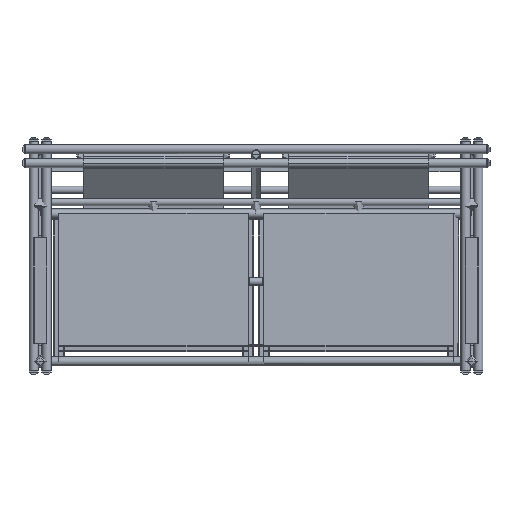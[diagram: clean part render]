
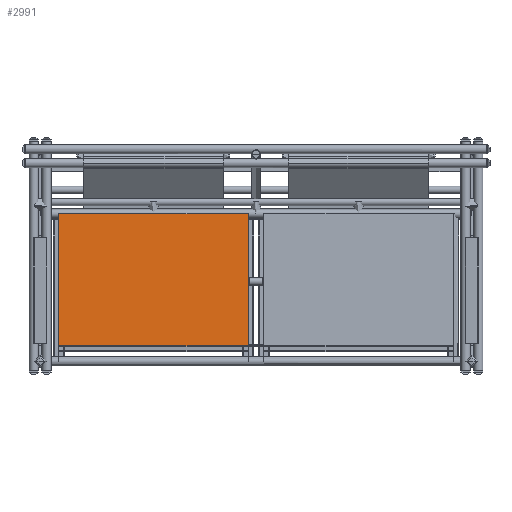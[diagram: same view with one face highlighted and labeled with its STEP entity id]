
A CAD part, top view. The second image highlights one B-rep face of the part: STEP entity #2991.
In plain terms, the highlighted free-form (B-spline) face has degree [1, 1] with [2, 2] control points.
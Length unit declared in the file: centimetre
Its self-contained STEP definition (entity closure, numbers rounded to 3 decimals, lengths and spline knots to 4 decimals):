
#2991=ADVANCED_FACE('',(#3645),#19189,.T.);
#3645=FACE_OUTER_BOUND('',#4301,.T.);
#4301=EDGE_LOOP('',(#5531,#5532,#5533,#5534));
#5531=ORIENTED_EDGE('',*,*,#14345,.F.);
#5532=ORIENTED_EDGE('',*,*,#14348,.F.);
#5533=ORIENTED_EDGE('',*,*,#14349,.T.);
#5534=ORIENTED_EDGE('',*,*,#14350,.T.);
#8148=PCURVE('',#19187,#10770);
#8152=PCURVE('',#19188,#10774);
#8153=PCURVE('',#19189,#10775);
#8154=PCURVE('',#19189,#10776);
#8155=PCURVE('',#19189,#10777);
#8156=PCURVE('',#19189,#10778);
#8159=PCURVE('',#19190,#10781);
#8162=PCURVE('',#19191,#10784);
#10770=DEFINITIONAL_REPRESENTATION('',(#16170),#48075);
#10774=DEFINITIONAL_REPRESENTATION('',(#16177),#48075);
#10775=DEFINITIONAL_REPRESENTATION('',(#16178),#48075);
#10776=DEFINITIONAL_REPRESENTATION('',(#16179),#48075);
#10777=DEFINITIONAL_REPRESENTATION('',(#16181),#48075);
#10778=DEFINITIONAL_REPRESENTATION('',(#16183),#48075);
#10781=DEFINITIONAL_REPRESENTATION('',(#16188),#48075);
#10784=DEFINITIONAL_REPRESENTATION('',(#16191),#48075);
#13034=SURFACE_CURVE('',#16169,(#8148,#8153),.PCURVE_S1.);
#13037=SURFACE_CURVE('',#16176,(#8152,#8154),.PCURVE_S1.);
#13038=SURFACE_CURVE('',#16180,(#8155,#8159),.PCURVE_S1.);
#13039=SURFACE_CURVE('',#16182,(#8156,#8162),.PCURVE_S1.);
#14345=EDGE_CURVE('',#18461,#18458,#13034,.T.);
#14348=EDGE_CURVE('',#18463,#18461,#13037,.T.);
#14349=EDGE_CURVE('',#18463,#18464,#13038,.T.);
#14350=EDGE_CURVE('',#18464,#18458,#13039,.T.);
#16169=B_SPLINE_CURVE_WITH_KNOTS('',1,(#27163,#27164),.UNSPECIFIED.,.F.,
 .F.,(2,2),(-39.4504,39.4504),.UNSPECIFIED.);
#16170=B_SPLINE_CURVE_WITH_KNOTS('',1,(#27165,#27166),.UNSPECIFIED.,.F.,
 .F.,(2,2),(-39.4504,39.4504),.UNSPECIFIED.);
#16176=B_SPLINE_CURVE_WITH_KNOTS('',1,(#27177,#27178),.UNSPECIFIED.,.F.,
 .F.,(2,2),(0.,55.1655),.UNSPECIFIED.);
#16177=B_SPLINE_CURVE_WITH_KNOTS('',1,(#27179,#27180),.UNSPECIFIED.,.F.,
 .F.,(2,2),(0.,55.1655),.UNSPECIFIED.);
#16178=B_SPLINE_CURVE_WITH_KNOTS('',1,(#27181,#27182),.UNSPECIFIED.,.F.,
 .F.,(2,2),(-39.4504,39.4504),.UNSPECIFIED.);
#16179=B_SPLINE_CURVE_WITH_KNOTS('',1,(#27183,#27184),.UNSPECIFIED.,.F.,
 .F.,(2,2),(0.,55.1655),.UNSPECIFIED.);
#16180=B_SPLINE_CURVE_WITH_KNOTS('',1,(#27185,#27186),.UNSPECIFIED.,.F.,
 .F.,(2,2),(-78.9008,0.),.UNSPECIFIED.);
#16181=B_SPLINE_CURVE_WITH_KNOTS('',1,(#27187,#27188),.UNSPECIFIED.,.F.,
 .F.,(2,2),(-78.9008,0.),.UNSPECIFIED.);
#16182=B_SPLINE_CURVE_WITH_KNOTS('',1,(#27189,#27190),.UNSPECIFIED.,.F.,
 .F.,(2,2),(-61.5768,-6.4113),.UNSPECIFIED.);
#16183=B_SPLINE_CURVE_WITH_KNOTS('',1,(#27191,#27192),.UNSPECIFIED.,.F.,
 .F.,(2,2),(-61.5768,-6.4113),.UNSPECIFIED.);
#16188=B_SPLINE_CURVE_WITH_KNOTS('',1,(#27201,#27202),.UNSPECIFIED.,.F.,
 .F.,(2,2),(-78.9008,0.),.UNSPECIFIED.);
#16191=B_SPLINE_CURVE_WITH_KNOTS('',1,(#27207,#27208),.UNSPECIFIED.,.F.,
 .F.,(2,2),(-61.5768,-6.4113),.UNSPECIFIED.);
#18458=VERTEX_POINT('',#27143);
#18461=VERTEX_POINT('',#27146);
#18463=VERTEX_POINT('',#27148);
#18464=VERTEX_POINT('',#27149);
#19187=B_SPLINE_SURFACE_WITH_KNOTS('',1,1,((#27119,#27120),(#27121,#27122)),
 .UNSPECIFIED.,.F.,.F.,.F.,(2,2),(2,2),(-0.26,0.26),
(-39.4604,39.4604),.UNSPECIFIED.);
#19188=B_SPLINE_SURFACE_WITH_KNOTS('',1,1,((#27123,#27124),(#27125,#27126)),
 .UNSPECIFIED.,.F.,.F.,.F.,(2,2),(2,2),(-2.5796,3.0796),
(-0.0333,55.1987),.UNSPECIFIED.);
#19189=B_SPLINE_SURFACE_WITH_KNOTS('',1,1,((#27127,#27128),(#27129,#27130)),
 .UNSPECIFIED.,.F.,.F.,.F.,(2,2),(2,2),(-24.3871,30.7984),
(-39.4604,39.4604),.UNSPECIFIED.);
#19190=B_SPLINE_SURFACE_WITH_KNOTS('',1,1,((#27131,#27132),(#27133,#27134)),
 .UNSPECIFIED.,.F.,.F.,.F.,(2,2),(2,2),(-0.01,0.51),
(-0.01,78.9108),.UNSPECIFIED.);
#19191=B_SPLINE_SURFACE_WITH_KNOTS('',1,1,((#27135,#27136),(#27137,#27138)),
 .UNSPECIFIED.,.F.,.F.,.F.,(2,2),(2,2),(-2.5796,3.0796),
(6.3781,61.6101),.UNSPECIFIED.);
#27119=CARTESIAN_POINT('',(-3.2892,-36.0431,24.0932));
#27120=CARTESIAN_POINT('',(-82.21,-36.0431,24.0932));
#27121=CARTESIAN_POINT('',(-3.2892,-36.0189,24.6126));
#27122=CARTESIAN_POINT('',(-82.21,-36.0189,24.6126));
#27123=CARTESIAN_POINT('',(-3.2992,18.9758,18.9524));
#27124=CARTESIAN_POINT('',(-3.2992,-36.1962,21.5279));
#27125=CARTESIAN_POINT('',(-3.2992,19.2397,24.6054));
#27126=CARTESIAN_POINT('',(-3.2992,-35.9323,27.181));
#27127=CARTESIAN_POINT('',(-3.2892,-36.0293,24.6031));
#27128=CARTESIAN_POINT('',(-82.21,-36.0293,24.6031));
#27129=CARTESIAN_POINT('',(-3.2892,19.0961,22.0297));
#27130=CARTESIAN_POINT('',(-82.21,19.0961,22.0297));
#27131=CARTESIAN_POINT('',(-82.21,19.0623,21.5207));
#27132=CARTESIAN_POINT('',(-3.2892,19.0623,21.5207));
#27133=CARTESIAN_POINT('',(-82.21,19.0866,22.0402));
#27134=CARTESIAN_POINT('',(-3.2892,19.0866,22.0402));
#27135=CARTESIAN_POINT('',(-82.2,-36.1962,21.5279));
#27136=CARTESIAN_POINT('',(-82.2,18.9758,18.9524));
#27137=CARTESIAN_POINT('',(-82.2,-35.9323,27.181));
#27138=CARTESIAN_POINT('',(-82.2,19.2397,24.6054));
#27143=CARTESIAN_POINT('',(-82.2,-36.0193,24.6026));
#27146=CARTESIAN_POINT('',(-3.2992,-36.0193,24.6026));
#27148=CARTESIAN_POINT('',(-3.2992,19.0861,22.0302));
#27149=CARTESIAN_POINT('',(-82.2,19.0861,22.0302));
#27163=CARTESIAN_POINT('',(-3.2992,-36.0193,24.6026));
#27164=CARTESIAN_POINT('',(-82.2,-36.0193,24.6026));
#27165=CARTESIAN_POINT('',(0.25,-39.45));
#27166=CARTESIAN_POINT('',(0.25,39.45));
#27177=CARTESIAN_POINT('',(-3.2992,19.0861,22.0302));
#27178=CARTESIAN_POINT('',(-3.2992,-36.0193,24.6026));
#27179=CARTESIAN_POINT('',(0.5,0.));
#27180=CARTESIAN_POINT('',(0.5,55.165));
#27181=CARTESIAN_POINT('',(-24.377,-39.45));
#27182=CARTESIAN_POINT('',(-24.377,39.45));
#27183=CARTESIAN_POINT('',(30.788,-39.45));
#27184=CARTESIAN_POINT('',(-24.377,-39.45));
#27185=CARTESIAN_POINT('',(-3.2992,19.0861,22.0302));
#27186=CARTESIAN_POINT('',(-82.2,19.0861,22.0302));
#27187=CARTESIAN_POINT('',(30.788,-39.45));
#27188=CARTESIAN_POINT('',(30.788,39.45));
#27189=CARTESIAN_POINT('',(-82.2,19.0861,22.0302));
#27190=CARTESIAN_POINT('',(-82.2,-36.0193,24.6026));
#27191=CARTESIAN_POINT('',(30.788,39.45));
#27192=CARTESIAN_POINT('',(-24.377,39.45));
#27201=CARTESIAN_POINT('',(0.5,78.901));
#27202=CARTESIAN_POINT('',(0.5,0.));
#27207=CARTESIAN_POINT('',(0.5,61.577));
#27208=CARTESIAN_POINT('',(0.5,6.411));
#48075=(
GEOMETRIC_REPRESENTATION_CONTEXT(2)
PARAMETRIC_REPRESENTATION_CONTEXT()
REPRESENTATION_CONTEXT('pspace','')
);
